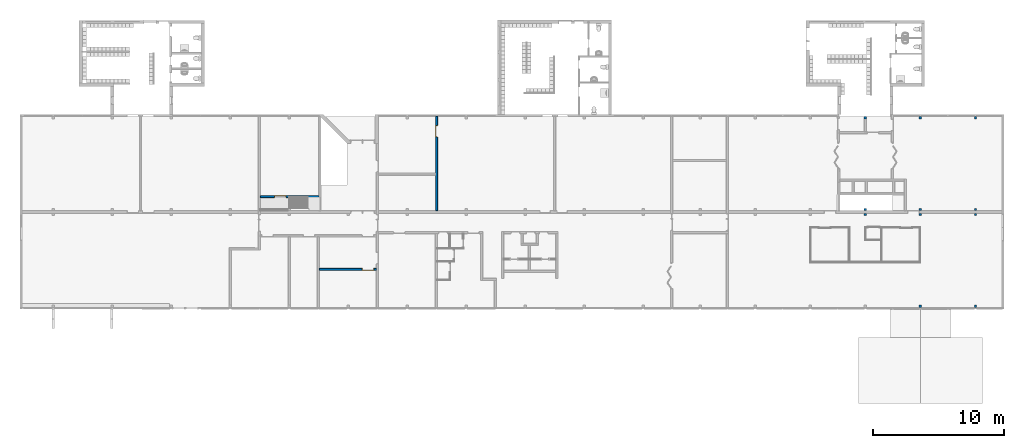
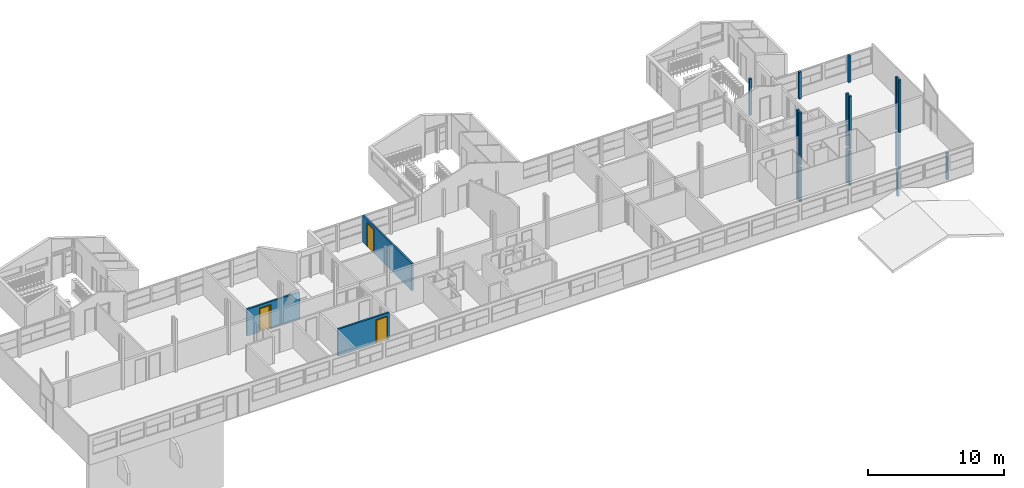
# One storey, part 3 of 48: 11 columns, 3 doors, 3 walls, 3 openings.
"""IFC2X3 building model written with IfcOpenShell, lengths in millimetres."""

from ifc_helpers import new_model, entity, si_unit, converted_unit, derived_unit, money_unit, direction, frame, origin_with_axes, place, context, subcontext, project, spatial, faceted_brep, source, transform, mapped, material, type_object, element, fill, save


model = new_model("IFC2X3")

# Units and contexts
model_context = context("Model", 3, precision=0.01, world=origin_with_axes(), true_north=direction((0.0, 1.0)))
body_context = subcontext(model_context, "Body", "Model", "MODEL_VIEW")
ifc_project = project(units=[si_unit("LENGTHUNIT", "METRE", prefix="MILLI"), si_unit("AREAUNIT", "SQUARE_METRE"), si_unit("VOLUMEUNIT", "CUBIC_METRE"), converted_unit("PLANEANGLEUNIT", "DEGREE", entity("IfcPlaneAngleMeasure", 0.0174532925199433), si_unit("PLANEANGLEUNIT", "RADIAN"), dimensions=[0, 0, 0, 0, 0, 0, 0]), money_unit("USD"), converted_unit("TIMEUNIT", "Year", entity("IfcTimeMeasure", 31557600.0), si_unit("TIMEUNIT", "SECOND"), dimensions=[0, 0, 1, 0, 0, 0, 0]), si_unit("MASSUNIT", "GRAM", prefix="KILO"), si_unit("THERMODYNAMICTEMPERATUREUNIT", "DEGREE_CELSIUS"), si_unit("LUMINOUSINTENSITYUNIT", "LUMEN"), si_unit("ENERGYUNIT", "JOULE", prefix="MEGA"), derived_unit("THERMALCONDUCTANCEUNIT", [(si_unit("POWERUNIT", "WATT"), 1), (si_unit("LENGTHUNIT", "METRE"), -1), (si_unit("THERMODYNAMICTEMPERATUREUNIT", "KELVIN"), -1)]), derived_unit("SPECIFICHEATCAPACITYUNIT", [(si_unit("ENERGYUNIT", "JOULE"), 1), (si_unit("MASSUNIT", "GRAM", prefix="KILO"), -1), (si_unit("THERMODYNAMICTEMPERATUREUNIT", "KELVIN"), -1)]), derived_unit("MASSDENSITYUNIT", [(si_unit("MASSUNIT", "GRAM", prefix="KILO"), 1), (si_unit("VOLUMEUNIT", "CUBIC_METRE"), -1)])], contexts=[model_context])

# Site, building, storey
site_placement = place(None, origin_with_axes())
site = spatial("IfcSite", under=ifc_project, at=site_placement, Name="Site", CompositionType="ELEMENT")
building_placement = place(site_placement, origin_with_axes())
building = spatial("IfcBuilding", under=site, at=building_placement, Name="Building", CompositionType="ELEMENT")
storey_placement = place(building_placement, frame((0.0, 0.0, 3300.0), z_axis=(0.0, 0.0, 1.0), x_axis=(1.0, 0.0, 0.0)))
storey = spatial("IfcBuildingStorey", under=building, at=storey_placement, Name="1 ETG", CompositionType="ELEMENT", Elevation=3300.0)

# Columns
ifc_material_1 = material(Name="GENERIC - STRUCTURAL")
column_type_1 = type_object("IfcColumnType", Name="GENERIC - STRUCTURAL 180 x 200", PredefinedType="COLUMN")
for number, where, z_axis, x_axis, name in (
    (1, (66150.0, 7299.863727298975, 0.0), (0.0, 0.0, 1.0), (1.0, 0.0, 0.0), "CRE - 001"),
    (2, (70350.0, 7299.871155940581, 0.0), (0.0, 0.0, 1.0), (1.0, 0.0, 0.0), "CRE - 001"),
):
    element("IfcColumn", number, at=place(storey_placement, frame(where, z_axis=z_axis, x_axis=x_axis)), inside=storey, type_object=column_type_1, material=ifc_material_1, Name=name, ObjectType="COLUMN", context=body_context, shape_type="Brep", body=[
        faceted_brep([(90.00000000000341, -99.99999999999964, 2400.0), (-90.00000000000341, -99.99999999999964, 2400.0), (-90.00000000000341, -99.99999999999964, 0.0), (90.00000000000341, -99.99999999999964, 0.0), (90.00000000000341, 100.0000000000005, 2400.0), (-90.00000000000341, 100.0000000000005, 2400.0), (-90.00000000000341, 100.0000000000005, 0.0), (90.00000000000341, 100.0000000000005, 0.0)], [[[0, 1, 2, 3]], [[4, 5, 1, 0]], [[1, 5, 6, 2]], [[7, 3, 2, 6]], [[4, 0, 3, 7]], [[5, 4, 7, 6]]]),
    ])
column_1_placement = place(storey_placement, frame((70350.0, 21699.87881708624, 0.0), z_axis=(0.0, 0.0, 1.0), x_axis=(1.0, 0.0, 0.0)))
element("IfcColumn", 3, at=column_1_placement, inside=storey, type_object=column_type_1, material=ifc_material_1, Name="CRE - 001", ObjectType="COLUMN", context=body_context, shape_type="Brep", body=[
    faceted_brep([(90.00000000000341, -99.99999999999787, 2400.0), (-90.00000000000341, -99.99999999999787, 2400.0), (-90.00000000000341, -99.99999999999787, 0.0), (90.00000000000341, -99.99999999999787, 0.0), (90.00000000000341, 100.0000000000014, 2400.0), (-90.00000000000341, 100.0000000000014, 2400.0), (-90.00000000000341, 100.0000000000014, 0.0), (90.00000000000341, 100.0000000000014, 0.0)], [[[0, 1, 2, 3]], [[4, 5, 1, 0]], [[1, 5, 6, 2]], [[7, 3, 2, 6]], [[4, 0, 3, 7]], [[5, 4, 7, 6]]]),
])
column_2_placement = place(storey_placement, frame((61949.99999999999, 21699.89284399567, 0.0), z_axis=(0.0, 0.0, 1.0), x_axis=(1.0, 0.0, 0.0)))
element("IfcColumn", 4, at=column_2_placement, inside=storey, type_object=column_type_1, material=ifc_material_1, Name="CRE - 001", ObjectType="COLUMN", context=body_context, shape_type="Brep", body=[
    faceted_brep([(90.00000000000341, -99.99999999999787, 3248.537732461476), (-90.00000000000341, -99.99999999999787, 3248.537732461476), (-90.00000000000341, -99.99999999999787, 0.0), (90.00000000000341, -99.99999999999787, 0.0), (90.00000000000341, 100.0000000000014, 3248.537732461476), (-90.00000000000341, 100.0000000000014, 3248.537732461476), (-90.00000000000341, 100.0000000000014, 0.0), (90.00000000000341, 100.0000000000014, 0.0)], [[[0, 1, 2, 3]], [[4, 5, 1, 0]], [[1, 5, 6, 2]], [[7, 3, 2, 6]], [[4, 0, 3, 7]], [[5, 4, 7, 6]]]),
])
column_3_placement = place(storey_placement, frame((66150.0, 21699.88583054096, 0.0), z_axis=(0.0, 0.0, 1.0), x_axis=(1.0, 0.0, 0.0)))
element("IfcColumn", 5, at=column_3_placement, inside=storey, type_object=column_type_1, material=ifc_material_1, Name="CRE - 001", ObjectType="COLUMN", context=body_context, shape_type="Brep", body=[
    faceted_brep([(90.00000000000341, -99.99999999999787, 2400.0), (-90.00000000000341, -99.99999999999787, 2400.0), (-90.00000000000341, -99.99999999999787, 0.0), (90.00000000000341, -99.99999999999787, 0.0), (90.00000000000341, 100.0000000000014, 2400.0), (-90.00000000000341, 100.0000000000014, 2400.0), (-90.00000000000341, 100.0000000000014, 0.0), (90.00000000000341, 100.0000000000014, 0.0)], [[[0, 1, 2, 3]], [[4, 5, 1, 0]], [[1, 5, 6, 2]], [[7, 3, 2, 6]], [[4, 0, 3, 7]], [[5, 4, 7, 6]]]),
])
column_type_2 = type_object("IfcColumnType", Name="GENERIC - STRUCTURAL 180 x 180", PredefinedType="COLUMN")
for number, where, z_axis, x_axis, name in (
    (6, (61949.99999999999, 14309.87497638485, -3300.0), (0.0, 0.0, 1.0), (1.0, 0.0, 0.0), "CRE - 001"),
    (7, (66150.0, 14309.87497638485, -3300.0), (0.0, 0.0, 1.0), (1.0, 0.0, 0.0), "CRE - 001"),
    (8, (70350.0, 14309.87497638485, -3300.0), (0.0, 0.0, 1.0), (1.0, 0.0, 0.0), "CRE - 001"),
    (9, (70350.0, 14689.87497638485, -3300.0), (0.0, 0.0, 1.0), (1.0, 0.0, 0.0), "CRE - 001"),
    (10, (66150.0, 14689.87497638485, -3300.0), (0.0, 0.0, 1.0), (1.0, 0.0, 0.0), "CRE - 001"),
):
    element("IfcColumn", number, at=place(storey_placement, frame(where, z_axis=z_axis, x_axis=x_axis)), inside=storey, type_object=column_type_2, material=ifc_material_1, Name=name, ObjectType="COLUMN", context=body_context, shape_type="Brep", body=[
        faceted_brep([(-90.00000000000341, 89.99999999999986, 0.0), (-90.00000000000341, 89.99999999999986, 3100.0), (90.00000000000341, 89.99999999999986, 3100.0), (90.00000000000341, 89.99999999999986, 0.0), (-90.00000000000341, -89.99999999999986, 0.0), (-90.00000000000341, -89.99999999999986, 3100.0), (90.00000000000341, -89.99999999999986, 3100.0), (90.00000000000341, -89.99999999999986, 0.0)], [[[0, 1, 2, 3]], [[4, 5, 1, 0]], [[5, 6, 2, 1]], [[3, 2, 6, 7]], [[3, 7, 4, 0]], [[7, 6, 5, 4]]]),
        faceted_brep([(90.00000000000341, -89.99999999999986, 8000.0), (90.00000000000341, -89.99999999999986, 3300.0), (90.00000000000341, 89.99999999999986, 3300.0), (90.00000000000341, 89.99999999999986, 8000.0), (-90.00000000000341, -89.99999999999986, 8000.0), (-90.00000000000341, -89.99999999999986, 3300.0), (-90.00000000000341, 89.99999999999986, 3300.0), (-90.00000000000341, 89.99999999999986, 8000.0)], [[[0, 1, 2, 3]], [[4, 5, 1, 0]], [[5, 6, 2, 1]], [[3, 2, 6, 7]], [[3, 7, 4, 0]], [[7, 6, 5, 4]]]),
    ])
column_4_placement = place(storey_placement, frame((61949.99999999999, 14689.87497638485, -3300.0), z_axis=(0.0, 0.0, 1.0), x_axis=(1.0, 0.0, 0.0)))
element("IfcColumn", 11, at=column_4_placement, inside=storey, type_object=column_type_2, material=ifc_material_1, Name="CRE - 001", ObjectType="COLUMN", context=body_context, shape_type="Brep", body=[
    faceted_brep([(90.00000000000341, -89.99999999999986, 8000.0), (-90.00000000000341, -89.99999999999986, 8000.0), (-90.00000000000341, -89.99999999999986, 0.0), (90.00000000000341, -89.99999999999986, 0.0), (90.00000000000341, 89.99999999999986, 8000.0), (-90.00000000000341, 89.99999999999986, 8000.0), (-90.00000000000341, 89.99999999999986, 0.0), (90.00000000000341, 89.99999999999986, 0.0)], [[[0, 1, 2, 3]], [[4, 5, 1, 0]], [[1, 5, 6, 2]], [[7, 3, 2, 6]], [[4, 0, 3, 7]], [[5, 4, 7, 6]]]),
])

# Wall, opening, door
ifc_material_2 = material(Name="GENERIC - INTERNAL FILLER")
wall_type = type_object("IfcWallType", Name="GENERIC - INTERNAL FILLER 150", PredefinedType="NOTDEFINED")
wall_1_placement = place(storey_placement, frame((29174.55238528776, 14599.87497638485, 0.0), z_axis=(0.0, 0.0, 1.0), x_axis=(0.0, 1.0, 0.0)))
wall_1 = element("IfcWall", 12, at=wall_1_placement, inside=storey, type_object=wall_type, material=ifc_material_2, Name="SW - 001", context=body_context, shape_type="Brep", body=[
    faceted_brep([(5600.072598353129, -149.9999999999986, 0.0), (5600.072598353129, -149.999999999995, 2100.0), (6500.072598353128, -149.999999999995, 2100.0), (6500.072598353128, -149.9999999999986, 0.0), (7200.072347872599, -149.9999999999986, 0.0), (7200.072347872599, -149.9999999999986, 2400.0), (0.1250236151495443, -149.999999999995, 2400.0), (0.1250236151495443, -149.9999999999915, 2300.000000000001), (0.0, -149.9999999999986, 2300.000000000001), (0.0, -149.9999999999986, 0.0), (5600.072598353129, 0.0, 0.0), (5600.072598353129, 0.0, 2100.0), (6500.072598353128, 0.0, 2100.0), (6500.072598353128, 0.0, 0.0), (7200.072598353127, 0.0, 0.0), (7200.072598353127, 0.0, 2400.0), (0.1250236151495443, 0.0, 2400.0), (0.1250236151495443, 0.0, 2300.000000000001), (0.0, 0.0, 2300.000000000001), (0.0, 0.0, 0.0)], [[[0, 1, 2, 3, 4, 5, 6, 7, 8, 9]], [[1, 0, 10, 11]], [[2, 1, 11, 12]], [[3, 2, 12, 13]], [[3, 13, 14, 4]], [[15, 5, 4, 14]], [[16, 6, 5, 15]], [[7, 6, 16, 17]], [[8, 7, 17, 18]], [[8, 18, 19, 9]], [[10, 0, 9, 19]], [[11, 10, 19, 18, 17, 16, 15, 14, 13, 12]]]),
])
opening_1_placement = place(wall_1_placement, frame((6050.072598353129, 0.0, 0.0), z_axis=(0.0, 0.0, 1.0), x_axis=(1.0, 0.0, 0.0)))
opening_1 = element("IfcOpeningElement", 13, at=opening_1_placement, cuts=wall_1, Name="DOO - 002", context=body_context, shape_type="Brep", body=[
    faceted_brep([(449.9999999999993, 0.0, 0.0), (449.9999999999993, 0.0, 2100.0), (449.9999999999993, -149.9999999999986, 2100.0), (449.9999999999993, -149.9999999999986, 0.0), (-449.9999999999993, 0.0, 2100.0), (486.9999999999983, 0.0, 0.0), (486.9999999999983, 0.0, 2137.0), (-486.9999999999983, 0.0, 2137.0), (-486.9999999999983, 0.0, 0.0), (-449.9999999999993, 0.0, 0.0), (-449.9999999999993, -149.9999999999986, 2100.0), (-449.9999999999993, -149.9999999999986, 0.0), (-486.9999999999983, -149.9999999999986, 0.0), (-486.9999999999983, -149.9999999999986, 2137.0), (486.9999999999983, -149.9999999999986, 2137.0), (486.9999999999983, -149.9999999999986, 0.0), (449.9999999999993, 1.000000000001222, 0.0), (449.9999999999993, -150.9999999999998, 0.0), (-449.9999999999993, -150.9999999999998, 0.0), (-449.9999999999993, 1.000000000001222, 0.0), (486.9999999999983, 1.000000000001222, 0.0), (486.9999999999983, 1.000000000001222, 2137.0), (-486.9999999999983, 1.000000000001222, 2137.0), (-486.9999999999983, 1.000000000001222, 0.0), (-486.9999999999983, -150.9999999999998, 0.0), (-486.9999999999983, -150.9999999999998, 2137.0), (486.9999999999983, -150.9999999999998, 2137.0), (486.9999999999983, -150.9999999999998, 0.0), (449.9999999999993, 1.000000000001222, 2100.0), (-449.9999999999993, 1.000000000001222, 2100.0)], [[[0, 1, 2, 3]], [[4, 1, 0, 5, 6, 7, 8, 9]], [[1, 4, 10, 2]], [[3, 2, 10, 11, 12, 13, 14, 15]], [[16, 0, 3, 17, 18, 11, 9, 19]], [[0, 16, 20, 5]], [[6, 5, 20, 21]], [[7, 6, 21, 22]], [[8, 7, 22, 23]], [[19, 9, 8, 23]], [[4, 9, 11, 10]], [[11, 18, 24, 12]], [[13, 12, 24, 25]], [[14, 13, 25, 26]], [[15, 14, 26, 27]], [[17, 3, 15, 27]], [[17, 27, 26, 25, 24, 18]], [[28, 16, 19, 29]], [[16, 28, 29, 19, 23, 22, 21, 20]]]),
])
door_style_1 = type_object("IfcDoorStyle", Name="Dør", ConstructionType="NOTDEFINED", OperationType="SINGLE_SWING_RIGHT", ParameterTakesPrecedence=False, Sizeable=False)
shared_shape_1 = source(origin_with_axes(), body_context, "Body", "Brep", [
    faceted_brep([(-450.0, -115.0, 0.0), (-425.0, -115.0, 0.0), (-425.0, -150.0, 0.0), (-450.0, -150.0, 0.0), (-450.0, -115.0000000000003, 2100.0), (-425.0, -115.0000000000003, 2075.0), (-425.0, -150.0000000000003, 2075.0), (-450.0, -150.0000000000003, 2100.0)], [[[0, 1, 2, 3]], [[0, 4, 5, 1]], [[1, 5, 6, 2]], [[3, 2, 6, 7]], [[4, 0, 3, 7]], [[5, 4, 7, 6]]]),
    faceted_brep([(450.0, -115.0000000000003, 2100.0), (425.0, -115.0000000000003, 2075.0), (425.0, -150.0000000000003, 2075.0), (450.0, -150.0000000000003, 2100.0), (450.0, -115.0, 0.0), (425.0, -115.0, 0.0), (425.0, -150.0, 0.0), (450.0, -150.0, 0.0)], [[[0, 1, 2, 3]], [[0, 4, 5, 1]], [[1, 5, 6, 2]], [[3, 2, 6, 7]], [[4, 0, 3, 7]], [[5, 4, 7, 6]]]),
    faceted_brep([(-425.0, -115.0000000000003, 2075.0), (425.0, -115.0000000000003, 2075.0), (425.0, -150.0000000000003, 2075.0), (-425.0, -150.0000000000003, 2075.0), (-450.0, -115.0000000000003, 2100.0), (450.0, -115.0000000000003, 2100.0), (450.0, -150.0000000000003, 2100.0), (-450.0, -150.0000000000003, 2100.0)], [[[0, 1, 2, 3]], [[0, 4, 5, 1]], [[1, 5, 6, 2]], [[3, 2, 6, 7]], [[4, 0, 3, 7]], [[5, 4, 7, 6]]]),
    faceted_brep([(-487.0, -169.0, 0.0), (-487.0, -150.0, 0.0), (-437.0, -150.0, 0.0), (-437.0, -169.0, 0.0), (-487.0, -169.0000000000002, 2137.0), (-487.0, -150.0000000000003, 2137.0), (-437.0, -150.0000000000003, 2087.0), (-437.0, -169.0000000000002, 2087.0)], [[[0, 1, 2, 3]], [[4, 5, 1, 0]], [[1, 5, 6, 2]], [[3, 2, 6, 7]], [[0, 3, 7, 4]], [[7, 6, 5, 4]]]),
    faceted_brep([(487.0, -169.0000000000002, 2137.0), (487.0, -150.0000000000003, 2137.0), (437.0, -150.0000000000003, 2087.0), (437.0, -169.0000000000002, 2087.0), (487.0, -169.0, 0.0), (487.0, -150.0, 0.0), (437.0, -150.0, 0.0), (437.0, -169.0, 0.0)], [[[0, 1, 2, 3]], [[4, 5, 1, 0]], [[1, 5, 6, 2]], [[3, 2, 6, 7]], [[0, 3, 7, 4]], [[7, 6, 5, 4]]]),
    faceted_brep([(-487.0, -169.0000000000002, 2137.0), (-487.0, -150.0000000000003, 2137.0), (-437.0, -150.0000000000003, 2087.0), (-437.0, -169.0000000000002, 2087.0), (487.0, -169.0000000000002, 2137.0), (487.0, -150.0000000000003, 2137.0), (437.0, -150.0000000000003, 2087.0), (437.0, -169.0000000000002, 2087.0)], [[[0, 1, 2, 3]], [[4, 5, 1, 0]], [[1, 5, 6, 2]], [[3, 2, 6, 7]], [[0, 3, 7, 4]], [[7, 6, 5, 4]]]),
    faceted_brep([(-487.0, 19.0, 0.0), (-437.0, 19.0, 0.0), (-437.0, 0.0, 0.0), (-487.0, 0.0, 0.0), (-487.0, 18.99999999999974, 2137.0), (-437.0, 18.99999999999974, 2087.0), (-437.0, 0.0, 2087.0), (-487.0, 0.0, 2137.0)], [[[0, 1, 2, 3]], [[0, 4, 5, 1]], [[1, 5, 6, 2]], [[3, 2, 6, 7]], [[4, 0, 3, 7]], [[5, 4, 7, 6]]]),
    faceted_brep([(487.0, 18.99999999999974, 2137.0), (437.0, 18.99999999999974, 2087.0), (437.0, 0.0, 2087.0), (487.0, 0.0, 2137.0), (487.0, 19.0, 0.0), (437.0, 19.0, 0.0), (437.0, 0.0, 0.0), (487.0, 0.0, 0.0)], [[[0, 1, 2, 3]], [[0, 4, 5, 1]], [[1, 5, 6, 2]], [[3, 2, 6, 7]], [[4, 0, 3, 7]], [[5, 4, 7, 6]]]),
    faceted_brep([(-487.0, 18.99999999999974, 2137.0), (-437.0, 18.99999999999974, 2087.0), (-437.0, 0.0, 2087.0), (-487.0, 0.0, 2137.0), (487.0, 18.99999999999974, 2137.0), (437.0, 18.99999999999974, 2087.0), (437.0, 0.0, 2087.0), (487.0, 0.0, 2137.0)], [[[0, 1, 2, 3]], [[0, 4, 5, 1]], [[1, 5, 6, 2]], [[3, 2, 6, 7]], [[4, 0, 3, 7]], [[5, 4, 7, 6]]]),
    faceted_brep([(-450.0, 0.0, 0.0), (-410.0000000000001, 0.0, 0.0), (-410.0000000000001, -115.0, 0.0), (-450.0, -115.0, 0.0), (-450.0, 0.0, 2060.0), (-410.0000000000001, 0.0, 2060.0), (-410.0000000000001, -115.0, 2060.0), (-450.0, -115.0, 2060.0)], [[[0, 1, 2, 3]], [[0, 4, 5, 1]], [[1, 5, 6, 2]], [[3, 2, 6, 7]], [[4, 0, 3, 7]], [[5, 4, 7, 6]]]),
    faceted_brep([(450.0, 0.0, 0.0), (450.0, 0.0, 2060.0), (450.0, -115.0, 2060.0), (450.0, -115.0, 0.0), (410.0000000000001, 0.0, 0.0), (410.0000000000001, 0.0, 2060.0), (410.0000000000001, -115.0, 2060.0), (410.0000000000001, -115.0, 0.0)], [[[0, 1, 2, 3]], [[0, 4, 5, 1]], [[1, 5, 6, 2]], [[3, 2, 6, 7]], [[4, 0, 3, 7]], [[5, 4, 7, 6]]]),
    faceted_brep([(-450.0, 0.0, 2100.0), (-450.0, 0.0, 2060.0), (-450.0, -115.0, 2060.0), (-450.0, -115.0, 2100.0), (450.0, 0.0, 2100.0), (450.0, 0.0, 2060.0), (410.0000000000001, 0.0, 2060.0), (-410.0000000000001, 0.0, 2060.0), (-410.0000000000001, -115.0, 2060.0), (410.0000000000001, -115.0, 2060.0), (450.0, -115.0, 2060.0), (450.0, -115.0, 2100.0)], [[[0, 1, 2, 3]], [[0, 4, 5, 6, 7, 1]], [[1, 7, 8, 2]], [[3, 2, 8, 9, 10, 11]], [[4, 0, 3, 11]], [[5, 4, 11, 10]], [[6, 5, 10, 9]], [[7, 6, 9, 8]]]),
    faceted_brep([(409.9999999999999, 0.0, 0.0), (409.9999999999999, -40.0, 0.0), (-410.0000000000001, -40.0, 0.0), (-410.0000000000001, 0.0, 0.0), (409.9999999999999, 0.0, 2060.0), (409.9999999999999, -40.00000000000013, 2060.0), (-410.0000000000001, -40.00000000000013, 2060.0), (-410.0000000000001, 0.0, 2060.0)], [[[0, 1, 2, 3]], [[4, 5, 1, 0]], [[1, 5, 6, 2]], [[3, 2, 6, 7]], [[0, 3, 7, 4]], [[7, 6, 5, 4]]]),
])
door_1_placement = place(opening_1_placement, frame((-449.9999999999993, 0.0, 0.0), z_axis=(0.0, 0.0, 1.0), x_axis=(1.0, 0.0, 0.0)))
door_1 = element("IfcDoor", 14, at=door_1_placement, inside=storey, type_object=door_style_1, Name="DOO - 002", ObjectType="DOOR", OverallHeight=2100.0, OverallWidth=900.0, context=body_context, shape_type="MappedRepresentation", body=[
    mapped(shared_shape_1, transform((449.9999999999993, 0.0, 0.0))),
])
fill(opening_1, door_1)

wall_2_placement = place(storey_placement, frame((20268.15333142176, 15599.87497638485, 0.0), z_axis=(0.0, 0.0, 1.0), x_axis=(-1.0, 0.0, 0.0)))
wall_2 = element("IfcWall", 15, at=wall_2_placement, inside=storey, type_object=wall_type, material=ifc_material_2, Name="SW - 001", context=body_context, shape_type="Brep", body=[
    faceted_brep([(3396.556033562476, -150.0000000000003, 2100.0), (3396.556033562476, -150.0000000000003, 0.0), (4468.153331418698, -150.0000000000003, 0.0), (4468.153331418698, -150.0000000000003, 2400.0), (0.0, -150.0000000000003, 2400.0), (0.0, -150.0000000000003, 0.0), (2496.556033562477, -150.0000000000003, 0.0), (2496.556033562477, -150.0000000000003, 2100.0), (3396.556033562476, 0.0, 2100.0), (3396.556033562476, 0.0, 0.0), (4468.153331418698, 0.0, 0.0), (4468.153331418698, 0.0, 2400.0), (0.0, 0.0, 2400.0), (0.0, 0.0, 0.0), (2496.556033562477, 0.0, 0.0), (2496.556033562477, 0.0, 2100.0)], [[[0, 1, 2, 3, 4, 5, 6, 7]], [[1, 0, 8, 9]], [[1, 9, 10, 2]], [[3, 2, 10, 11]], [[11, 12, 4, 3]], [[4, 12, 13, 5]], [[14, 6, 5, 13]], [[7, 6, 14, 15]], [[0, 7, 15, 8]], [[15, 14, 13, 12, 11, 10, 9, 8]]]),
])
opening_2_placement = place(wall_2_placement, frame((2946.556033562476, 0.0, 0.0), z_axis=(0.0, 0.0, 1.0), x_axis=(1.0, 0.0, 0.0)))
opening_2 = element("IfcOpeningElement", 16, at=opening_2_placement, cuts=wall_2, Name="DOO - 002", context=body_context, shape_type="Brep", body=[
    faceted_brep([(449.9999999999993, -150.9999999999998, 2100.0), (-449.9999999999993, -150.9999999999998, 2100.0), (-449.9999999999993, -150.9999999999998, 0.0), (449.9999999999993, -150.9999999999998, 0.0), (486.9999999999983, -150.9999999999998, 0.0), (486.9999999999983, -150.9999999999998, 2137.0), (-486.9999999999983, -150.9999999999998, 2137.0), (-486.9999999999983, -150.9999999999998, 0.0), (449.9999999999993, -150.0000000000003, 0.0), (-449.9999999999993, -150.0000000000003, 0.0), (-449.9999999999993, 0.0, 0.0), (-449.9999999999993, 0.9999999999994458, 0.0), (449.9999999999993, 0.9999999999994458, 0.0), (449.9999999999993, 0.0, 0.0), (486.9999999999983, -150.0000000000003, 0.0), (486.9999999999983, -150.0000000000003, 2137.0), (-486.9999999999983, -150.0000000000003, 2137.0), (-486.9999999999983, -150.0000000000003, 0.0), (-449.9999999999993, -150.0000000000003, 2100.0), (-449.9999999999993, 0.0, 2100.0), (-486.9999999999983, 0.0, 0.0), (-486.9999999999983, 0.9999999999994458, 0.0), (-486.9999999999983, 0.9999999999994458, 2137.0), (486.9999999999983, 0.9999999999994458, 2137.0), (486.9999999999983, 0.9999999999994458, 0.0), (486.9999999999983, 0.0, 0.0), (449.9999999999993, -150.0000000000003, 2100.0), (449.9999999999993, 0.0, 2100.0), (486.9999999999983, 0.0, 2137.0), (-486.9999999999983, 0.0, 2137.0)], [[[0, 1, 2, 3]], [[2, 1, 0, 3, 4, 5, 6, 7]], [[8, 3, 2, 9, 10, 11, 12, 13]], [[3, 8, 14, 4]], [[14, 15, 5, 4]], [[15, 16, 6, 5]], [[16, 17, 7, 6]], [[9, 2, 7, 17]], [[9, 18, 19, 10]], [[11, 10, 20, 21]], [[12, 11, 21, 22, 23, 24]], [[13, 12, 24, 25]], [[26, 8, 13, 27]], [[26, 18, 9, 17, 16, 15, 14, 8]], [[18, 26, 27, 19]], [[10, 19, 27, 13, 25, 28, 29, 20]], [[20, 29, 22, 21]], [[29, 28, 23, 22]], [[28, 25, 24, 23]]]),
])
door_style_2 = type_object("IfcDoorStyle", Name="Dør", ConstructionType="NOTDEFINED", OperationType="SINGLE_SWING_RIGHT", ParameterTakesPrecedence=False, Sizeable=False)
door_2_placement = place(opening_2_placement, frame((449.9999999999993, 0.0, 0.0), z_axis=(0.0, 0.0, 1.0), x_axis=(-1.0, 0.0, 0.0)))
door_2 = element("IfcDoor", 17, at=door_2_placement, inside=storey, type_object=door_style_2, Name="DOO - 002", ObjectType="DOOR", OverallHeight=2100.0, OverallWidth=900.0, context=body_context, shape_type="MappedRepresentation", body=[
    mapped(shared_shape_1, transform((449.9999999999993, 150.0000000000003, 0.0))),
])
fill(opening_2, door_2)

wall_3_placement = place(storey_placement, frame((20300.07358435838, 10199.87497638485, 0.0), z_axis=(0.0, 0.0, 1.0), x_axis=(1.0, 0.0, 0.0)))
wall_3 = element("IfcWall", 18, at=wall_3_placement, inside=storey, type_object=wall_type, material=ifc_material_2, Name="SW - 001", context=body_context, shape_type="Brep", body=[
    faceted_brep([(3264.771080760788, 0.0, 2100.0), (3264.771080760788, 0.0, 0.0), (0.0002782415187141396, 0.0, 0.0), (0.0002782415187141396, 0.0, 2400.0), (4350.192628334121, 0.0, 2400.0), (4350.192628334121, 0.0, 0.0), (4164.771080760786, 0.0, 0.0), (4164.771080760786, 0.0, 2100.0), (3264.771080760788, -150.0000000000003, 2100.0), (3264.771080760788, -150.0000000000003, 0.0), (-0.003424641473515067, -150.0000000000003, 0.0), (-0.003424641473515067, -150.0000000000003, 2400.0), (4350.192628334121, -150.0000000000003, 2400.0), (4350.192628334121, -150.0000000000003, 0.0), (4164.771080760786, -150.0000000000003, 0.0), (4164.771080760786, -150.0000000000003, 2100.0)], [[[0, 1, 2, 3, 4, 5, 6, 7]], [[1, 0, 8, 9]], [[1, 9, 10, 2]], [[11, 3, 2, 10]], [[4, 3, 11, 12]], [[12, 13, 5, 4]], [[14, 6, 5, 13]], [[7, 6, 14, 15]], [[0, 7, 15, 8]], [[15, 14, 13, 12, 11, 10, 9, 8]]]),
])
opening_3_placement = place(wall_3_placement, frame((3714.771080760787, 0.0, 0.0), z_axis=(0.0, 0.0, 1.0), x_axis=(1.0, 0.0, 0.0)))
opening_3 = element("IfcOpeningElement", 19, at=opening_3_placement, cuts=wall_3, Name="DOO - 002", context=body_context, shape_type="Brep", body=[
    faceted_brep([(-449.9999999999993, -150.0000000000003, 2100.0), (449.9999999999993, -150.0000000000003, 2100.0), (449.9999999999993, 0.0, 2100.0), (-449.9999999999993, 0.0, 2100.0), (449.9999999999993, -150.0000000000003, 0.0), (-449.9999999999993, -150.0000000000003, 0.0), (-486.9999999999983, -150.0000000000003, 0.0), (-486.9999999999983, -150.0000000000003, 2137.0), (486.9999999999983, -150.0000000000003, 2137.0), (486.9999999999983, -150.0000000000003, 0.0), (449.9999999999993, 0.0, 0.0), (486.9999999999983, 0.0, 0.0), (486.9999999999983, 0.0, 2137.0), (-486.9999999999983, 0.0, 2137.0), (-486.9999999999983, 0.0, 0.0), (-449.9999999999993, 0.0, 0.0), (-449.9999999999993, -150.9999999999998, 0.0), (-486.9999999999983, -150.9999999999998, 0.0), (-486.9999999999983, -150.9999999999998, 2137.0), (486.9999999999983, -150.9999999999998, 2137.0), (486.9999999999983, -150.9999999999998, 0.0), (449.9999999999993, -150.9999999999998, 0.0), (-449.9999999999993, 0.9999999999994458, 0.0), (449.9999999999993, 0.9999999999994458, 0.0), (486.9999999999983, 0.9999999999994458, 0.0), (486.9999999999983, 0.9999999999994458, 2137.0), (-486.9999999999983, 0.9999999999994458, 2137.0), (-486.9999999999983, 0.9999999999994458, 0.0), (-449.9999999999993, -150.9999999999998, 2100.0), (449.9999999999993, -150.9999999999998, 2100.0)], [[[0, 1, 2, 3]], [[4, 1, 0, 5, 6, 7, 8, 9]], [[1, 4, 10, 2]], [[3, 2, 10, 11, 12, 13, 14, 15]], [[5, 0, 3, 15]], [[5, 16, 17, 6]], [[7, 6, 17, 18]], [[8, 7, 18, 19]], [[9, 8, 19, 20]], [[21, 4, 9, 20]], [[16, 5, 15, 22, 23, 10, 4, 21]], [[10, 23, 24, 11]], [[12, 11, 24, 25]], [[13, 12, 25, 26]], [[14, 13, 26, 27]], [[22, 15, 14, 27]], [[28, 29, 21, 20, 19, 18, 17, 16]], [[23, 22, 27, 26, 25, 24]], [[28, 16, 21, 29]]]),
])
door_style_3 = type_object("IfcDoorStyle", Name="Dør", ConstructionType="NOTDEFINED", OperationType="SINGLE_SWING_LEFT", ParameterTakesPrecedence=False, Sizeable=False)
shared_shape_2 = source(origin_with_axes(), body_context, "Body", "Brep", [
    faceted_brep([(450.0, -115.0, 0.0), (450.0, -150.0, 0.0), (425.0, -150.0, 0.0), (425.0, -115.0, 0.0), (450.0, -115.0000000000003, 2100.0), (450.0, -150.0000000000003, 2100.0), (425.0, -150.0000000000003, 2075.0), (425.0, -115.0000000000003, 2075.0)], [[[0, 1, 2, 3]], [[4, 5, 1, 0]], [[1, 5, 6, 2]], [[3, 2, 6, 7]], [[0, 3, 7, 4]], [[7, 6, 5, 4]]]),
    faceted_brep([(-450.0, -115.0000000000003, 2100.0), (-450.0, -150.0000000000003, 2100.0), (-425.0, -150.0000000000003, 2075.0), (-425.0, -115.0000000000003, 2075.0), (-450.0, -115.0, 0.0), (-450.0, -150.0, 0.0), (-425.0, -150.0, 0.0), (-425.0, -115.0, 0.0)], [[[0, 1, 2, 3]], [[4, 5, 1, 0]], [[1, 5, 6, 2]], [[3, 2, 6, 7]], [[0, 3, 7, 4]], [[7, 6, 5, 4]]]),
    faceted_brep([(425.0, -115.0000000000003, 2075.0), (425.0, -150.0000000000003, 2075.0), (-425.0, -150.0000000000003, 2075.0), (-425.0, -115.0000000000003, 2075.0), (450.0, -115.0000000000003, 2100.0), (450.0, -150.0000000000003, 2100.0), (-450.0, -150.0000000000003, 2100.0), (-450.0, -115.0000000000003, 2100.0)], [[[0, 1, 2, 3]], [[4, 5, 1, 0]], [[1, 5, 6, 2]], [[3, 2, 6, 7]], [[0, 3, 7, 4]], [[7, 6, 5, 4]]]),
    faceted_brep([(487.0, -169.0, 0.0), (437.0, -169.0, 0.0), (437.0, -150.0, 0.0), (487.0, -150.0, 0.0), (487.0, -169.0000000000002, 2137.0), (437.0, -169.0000000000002, 2087.0), (437.0, -150.0000000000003, 2087.0), (487.0, -150.0000000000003, 2137.0)], [[[0, 1, 2, 3]], [[0, 4, 5, 1]], [[1, 5, 6, 2]], [[3, 2, 6, 7]], [[4, 0, 3, 7]], [[5, 4, 7, 6]]]),
    faceted_brep([(-487.0, -169.0000000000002, 2137.0), (-437.0, -169.0000000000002, 2087.0), (-437.0, -150.0000000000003, 2087.0), (-487.0, -150.0000000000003, 2137.0), (-487.0, -169.0, 0.0), (-437.0, -169.0, 0.0), (-437.0, -150.0, 0.0), (-487.0, -150.0, 0.0)], [[[0, 1, 2, 3]], [[0, 4, 5, 1]], [[1, 5, 6, 2]], [[3, 2, 6, 7]], [[4, 0, 3, 7]], [[5, 4, 7, 6]]]),
    faceted_brep([(487.0, -169.0000000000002, 2137.0), (437.0, -169.0000000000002, 2087.0), (437.0, -150.0000000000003, 2087.0), (487.0, -150.0000000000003, 2137.0), (-487.0, -169.0000000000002, 2137.0), (-437.0, -169.0000000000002, 2087.0), (-437.0, -150.0000000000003, 2087.0), (-487.0, -150.0000000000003, 2137.0)], [[[0, 1, 2, 3]], [[0, 4, 5, 1]], [[1, 5, 6, 2]], [[3, 2, 6, 7]], [[4, 0, 3, 7]], [[5, 4, 7, 6]]]),
    faceted_brep([(487.0, 19.0, 0.0), (487.0, 0.0, 0.0), (437.0, 0.0, 0.0), (437.0, 19.0, 0.0), (487.0, 18.99999999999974, 2137.0), (487.0, 0.0, 2137.0), (437.0, 0.0, 2087.0), (437.0, 18.99999999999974, 2087.0)], [[[0, 1, 2, 3]], [[4, 5, 1, 0]], [[1, 5, 6, 2]], [[3, 2, 6, 7]], [[0, 3, 7, 4]], [[7, 6, 5, 4]]]),
    faceted_brep([(-487.0, 18.99999999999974, 2137.0), (-487.0, 0.0, 2137.0), (-437.0, 0.0, 2087.0), (-437.0, 18.99999999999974, 2087.0), (-487.0, 19.0, 0.0), (-487.0, 0.0, 0.0), (-437.0, 0.0, 0.0), (-437.0, 19.0, 0.0)], [[[0, 1, 2, 3]], [[4, 5, 1, 0]], [[1, 5, 6, 2]], [[3, 2, 6, 7]], [[0, 3, 7, 4]], [[7, 6, 5, 4]]]),
    faceted_brep([(487.0, 18.99999999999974, 2137.0), (487.0, 0.0, 2137.0), (437.0, 0.0, 2087.0), (437.0, 18.99999999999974, 2087.0), (-487.0, 18.99999999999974, 2137.0), (-487.0, 0.0, 2137.0), (-437.0, 0.0, 2087.0), (-437.0, 18.99999999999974, 2087.0)], [[[0, 1, 2, 3]], [[4, 5, 1, 0]], [[1, 5, 6, 2]], [[3, 2, 6, 7]], [[0, 3, 7, 4]], [[7, 6, 5, 4]]]),
    faceted_brep([(450.0, 0.0, 0.0), (450.0, -115.0, 0.0), (410.0000000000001, -115.0, 0.0), (410.0000000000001, 0.0, 0.0), (450.0, 0.0, 2060.0), (450.0, -115.0, 2060.0), (410.0000000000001, -115.0, 2060.0), (410.0000000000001, 0.0, 2060.0)], [[[0, 1, 2, 3]], [[4, 5, 1, 0]], [[1, 5, 6, 2]], [[3, 2, 6, 7]], [[0, 3, 7, 4]], [[7, 6, 5, 4]]]),
    faceted_brep([(-450.0, 0.0, 0.0), (-450.0, -115.0, 0.0), (-450.0, -115.0, 2060.0), (-450.0, 0.0, 2060.0), (-410.0000000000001, 0.0, 0.0), (-410.0000000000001, -115.0, 0.0), (-410.0000000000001, -115.0, 2060.0), (-410.0000000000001, 0.0, 2060.0)], [[[0, 1, 2, 3]], [[4, 5, 1, 0]], [[1, 5, 6, 2]], [[3, 2, 6, 7]], [[0, 3, 7, 4]], [[7, 6, 5, 4]]]),
    faceted_brep([(450.0, 0.0, 2100.0), (450.0, -115.0, 2100.0), (450.0, -115.0, 2060.0), (450.0, 0.0, 2060.0), (-450.0, 0.0, 2100.0), (-450.0, -115.0, 2100.0), (-450.0, -115.0, 2060.0), (-410.0000000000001, -115.0, 2060.0), (410.0000000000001, -115.0, 2060.0), (410.0000000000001, 0.0, 2060.0), (-410.0000000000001, 0.0, 2060.0), (-450.0, 0.0, 2060.0)], [[[0, 1, 2, 3]], [[4, 5, 1, 0]], [[1, 5, 6, 7, 8, 2]], [[3, 2, 8, 9]], [[0, 3, 9, 10, 11, 4]], [[11, 6, 5, 4]], [[10, 7, 6, 11]], [[9, 8, 7, 10]]]),
    faceted_brep([(-409.9999999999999, 0.0, 0.0), (410.0000000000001, 0.0, 0.0), (410.0000000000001, -40.0, 0.0), (-409.9999999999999, -40.0, 0.0), (-409.9999999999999, 0.0, 2060.0), (410.0000000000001, 0.0, 2060.0), (410.0000000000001, -40.00000000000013, 2060.0), (-409.9999999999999, -40.00000000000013, 2060.0)], [[[0, 1, 2, 3]], [[0, 4, 5, 1]], [[1, 5, 6, 2]], [[3, 2, 6, 7]], [[4, 0, 3, 7]], [[5, 4, 7, 6]]]),
])
door_3_placement = place(opening_3_placement, frame((449.9999999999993, 0.0, 0.0), z_axis=(0.0, 0.0, 1.0), x_axis=(-1.0, 0.0, 0.0)))
door_3 = element("IfcDoor", 20, at=door_3_placement, inside=storey, type_object=door_style_3, Name="DOO - 002", ObjectType="DOOR", OverallHeight=2100.0, OverallWidth=900.0, context=body_context, shape_type="MappedRepresentation", body=[
    mapped(shared_shape_2, transform((449.9999999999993, 150.0000000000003, 0.0))),
])
fill(opening_3, door_3)

save(model, "model.ifc")
